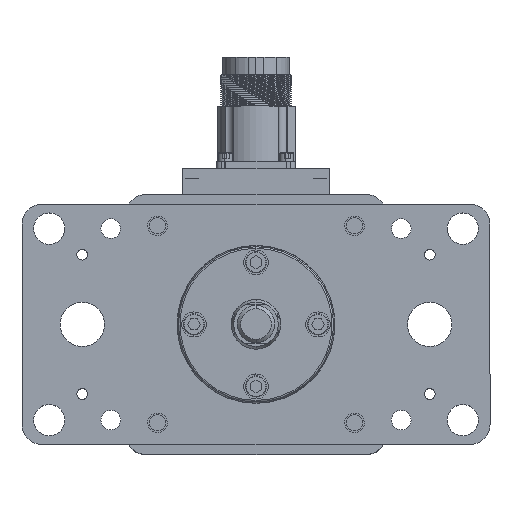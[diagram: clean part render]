
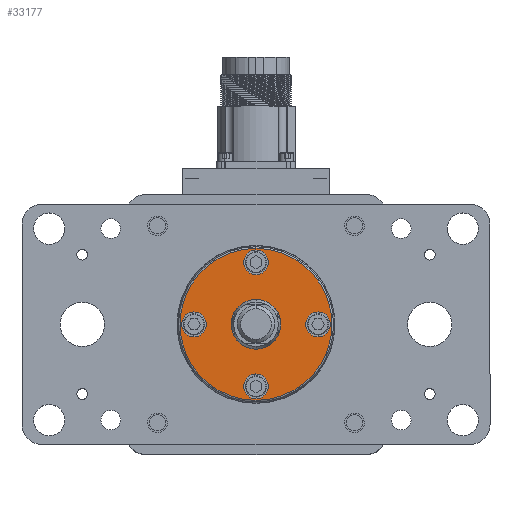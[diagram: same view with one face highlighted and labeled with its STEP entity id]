
A CAD part, top view. The second image highlights one B-rep face of the part: STEP entity #33177.
In plain terms, the highlighted planar face has unit normal (0, 0, 1).
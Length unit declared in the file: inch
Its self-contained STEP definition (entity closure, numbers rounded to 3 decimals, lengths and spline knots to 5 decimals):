
#13847 = CARTESIAN_POINT ( 'NONE',  ( 0., 0., 0. ) ) ;
#13852 = CARTESIAN_POINT ( 'NONE',  ( 0.15748, -0.7874, 0. ) ) ;
#13853 = DIRECTION ( 'NONE',  ( 1., 0., 0. ) ) ;
#13854 = DIRECTION ( 'NONE',  ( 0., 0., 1. ) ) ;
#13855 = CARTESIAN_POINT ( 'NONE',  ( 0., -0.7874, 0. ) ) ;
#13856 = AXIS2_PLACEMENT_3D ( 'NONE', #13855, #13854, #13853 ) ;
#13857 = CIRCLE ( 'NONE', #13856, 0.15748 ) ;
#13858 = CARTESIAN_POINT ( 'NONE',  ( -0.15748, -0.7874, 0. ) ) ;
#13884 = CARTESIAN_POINT ( 'NONE',  ( -0.62992, 0., 0. ) ) ;
#13885 = DIRECTION ( 'NONE',  ( 1., 0., 0. ) ) ;
#13886 = DIRECTION ( 'NONE',  ( 0., 0., 1. ) ) ;
#13887 = CARTESIAN_POINT ( 'NONE',  ( -0.7874, 0., 0. ) ) ;
#13888 = AXIS2_PLACEMENT_3D ( 'NONE', #13887, #13886, #13885 ) ;
#13889 = CIRCLE ( 'NONE', #13888, 0.15748 ) ;
#13890 = CARTESIAN_POINT ( 'NONE',  ( -0.94488, 0., 0. ) ) ;
#13953 = CARTESIAN_POINT ( 'NONE',  ( 0.15748, 0.7874, 0. ) ) ;
#13954 = DIRECTION ( 'NONE',  ( 1., 0., 0. ) ) ;
#13955 = DIRECTION ( 'NONE',  ( 0., 0., 1. ) ) ;
#13956 = CARTESIAN_POINT ( 'NONE',  ( 0., 0.7874, 0. ) ) ;
#13957 = AXIS2_PLACEMENT_3D ( 'NONE', #13956, #13955, #13954 ) ;
#13958 = CIRCLE ( 'NONE', #13957, 0.15748 ) ;
#13959 = CARTESIAN_POINT ( 'NONE',  ( -0.15748, 0.7874, 0. ) ) ;
#13983 = CARTESIAN_POINT ( 'NONE',  ( 0.94488, 0., 0. ) ) ;
#13984 = DIRECTION ( 'NONE',  ( 1., 0., 0. ) ) ;
#13985 = DIRECTION ( 'NONE',  ( 0., 0., 1. ) ) ;
#13986 = CARTESIAN_POINT ( 'NONE',  ( 0.7874, 0., 0. ) ) ;
#13987 = AXIS2_PLACEMENT_3D ( 'NONE', #13986, #13985, #13984 ) ;
#13988 = CIRCLE ( 'NONE', #13987, 0.15748 ) ;
#13989 = CARTESIAN_POINT ( 'NONE',  ( 0.62992, 0., 0. ) ) ;
#14084 = CARTESIAN_POINT ( 'NONE',  ( 0., 0.96457, 0. ) ) ;
#14085 = CARTESIAN_POINT ( 'NONE',  ( 0., -0.96457, 0. ) ) ;
#14086 = DIRECTION ( 'NONE',  ( 0., 1., 0. ) ) ;
#14087 = DIRECTION ( 'NONE',  ( 0., 0., 1. ) ) ;
#14088 = CARTESIAN_POINT ( 'NONE',  ( 0., 0., 0. ) ) ;
#14089 = AXIS2_PLACEMENT_3D ( 'NONE', #14088, #14087, #14086 ) ;
#14090 = CIRCLE ( 'NONE', #14089, 0.96457 ) ;
#14101 = AXIS2_PLACEMENT_3D ( 'NONE', #13847, #14356, #14674 ) ;
#14225 = CIRCLE ( 'NONE', #14292, 0.31496 ) ;
#14288 = CARTESIAN_POINT ( 'NONE',  ( 0., -0.31496, 0. ) ) ;
#14289 = DIRECTION ( 'NONE',  ( 0., -1., 0. ) ) ;
#14290 = DIRECTION ( 'NONE',  ( 0., 0., 1. ) ) ;
#14291 = CARTESIAN_POINT ( 'NONE',  ( 0., 0., 0. ) ) ;
#14292 = AXIS2_PLACEMENT_3D ( 'NONE', #14291, #14290, #14289 ) ;
#14309 = CARTESIAN_POINT ( 'NONE',  ( 0., 0.31496, 0. ) ) ;
#14356 = DIRECTION ( 'NONE',  ( 0., 0., 1. ) ) ;
#14610 = CIRCLE ( 'NONE', #14101, 0.31496 ) ;
#14612 = DIRECTION ( 'NONE',  ( 0., 1., 0. ) ) ;
#14613 = DIRECTION ( 'NONE',  ( 0., 0., 1. ) ) ;
#14614 = CARTESIAN_POINT ( 'NONE',  ( 0., 0., 0. ) ) ;
#14615 = AXIS2_PLACEMENT_3D ( 'NONE', #14614, #14613, #14612 ) ;
#14616 = CIRCLE ( 'NONE', #14615, 0.96457 ) ;
#14617 = DIRECTION ( 'NONE',  ( 1., 0., 0. ) ) ;
#14618 = DIRECTION ( 'NONE',  ( 0., 0., 1. ) ) ;
#14619 = CARTESIAN_POINT ( 'NONE',  ( 0., 0.7874, 0. ) ) ;
#14620 = AXIS2_PLACEMENT_3D ( 'NONE', #14619, #14618, #14617 ) ;
#14621 = CIRCLE ( 'NONE', #14620, 0.15748 ) ;
#14643 = DIRECTION ( 'NONE',  ( 1., 0., 0. ) ) ;
#14644 = DIRECTION ( 'NONE',  ( 0., 0., 1. ) ) ;
#14645 = CARTESIAN_POINT ( 'NONE',  ( 0.7874, 0., 0. ) ) ;
#14646 = AXIS2_PLACEMENT_3D ( 'NONE', #14645, #14644, #14643 ) ;
#14647 = CIRCLE ( 'NONE', #14646, 0.15748 ) ;
#14648 = DIRECTION ( 'NONE',  ( 1., 0., 0. ) ) ;
#14649 = DIRECTION ( 'NONE',  ( 0., 0., 1. ) ) ;
#14650 = CARTESIAN_POINT ( 'NONE',  ( 0., -0.7874, 0. ) ) ;
#14651 = AXIS2_PLACEMENT_3D ( 'NONE', #14650, #14649, #14648 ) ;
#14652 = CIRCLE ( 'NONE', #14651, 0.15748 ) ;
#14653 = DIRECTION ( 'NONE',  ( 1., 0., 0. ) ) ;
#14654 = DIRECTION ( 'NONE',  ( 0., 0., 1. ) ) ;
#14655 = CARTESIAN_POINT ( 'NONE',  ( -0.7874, 0., 0. ) ) ;
#14656 = AXIS2_PLACEMENT_3D ( 'NONE', #14655, #14654, #14653 ) ;
#14657 = CIRCLE ( 'NONE', #14656, 0.15748 ) ;
#14658 = DIRECTION ( 'NONE',  ( 0., 1., 0. ) ) ;
#14659 = DIRECTION ( 'NONE',  ( 0., 0., -1. ) ) ;
#14660 = CARTESIAN_POINT ( 'NONE',  ( 0., 0.98425, 0. ) ) ;
#14661 = AXIS2_PLACEMENT_3D ( 'NONE', #14660, #14659, #14658 ) ;
#14662 = PLANE ( 'NONE',  #14661 ) ;
#14663 = FACE_BOUND ( 'NONE', #33172, .T. ) ;
#14664 = FACE_OUTER_BOUND ( 'NONE', #33168, .T. ) ;
#14665 = FACE_BOUND ( 'NONE', #33164, .T. ) ;
#14666 = FACE_BOUND ( 'NONE', #33186, .T. ) ;
#14667 = FACE_BOUND ( 'NONE', #33182, .T. ) ;
#14668 = FACE_BOUND ( 'NONE', #33178, .T. ) ;
#14674 = DIRECTION ( 'NONE',  ( 0., -1., 0. ) ) ;
#32785 = VERTEX_POINT ( 'NONE', #13858 ) ;
#32787 = EDGE_CURVE ( 'NONE', #32785, #32788, #13857, .T. ) ;
#32788 = VERTEX_POINT ( 'NONE', #13852 ) ;
#32799 = VERTEX_POINT ( 'NONE', #13890 ) ;
#32801 = EDGE_CURVE ( 'NONE', #32799, #32802, #13889, .T. ) ;
#32802 = VERTEX_POINT ( 'NONE', #13884 ) ;
#32833 = VERTEX_POINT ( 'NONE', #13959 ) ;
#32835 = EDGE_CURVE ( 'NONE', #32833, #32836, #13958, .T. ) ;
#32836 = VERTEX_POINT ( 'NONE', #13953 ) ;
#32850 = VERTEX_POINT ( 'NONE', #13989 ) ;
#32852 = EDGE_CURVE ( 'NONE', #32850, #32853, #13988, .T. ) ;
#32853 = VERTEX_POINT ( 'NONE', #13983 ) ;
#32894 = EDGE_CURVE ( 'NONE', #32895, #32896, #14090, .T. ) ;
#32895 = VERTEX_POINT ( 'NONE', #14085 ) ;
#32896 = VERTEX_POINT ( 'NONE', #14084 ) ;
#32961 = EDGE_CURVE ( 'NONE', #32987, #32962, #14225, .T. ) ;
#32962 = VERTEX_POINT ( 'NONE', #14288 ) ;
#32987 = VERTEX_POINT ( 'NONE', #14309 ) ;
#33163 = ORIENTED_EDGE ( 'NONE', *, *, #32852, .F. ) ;
#33164 = EDGE_LOOP ( 'NONE', ( #33165, #33167 ) ) ;
#33165 = ORIENTED_EDGE ( 'NONE', *, *, #33166, .F. ) ;
#33166 = EDGE_CURVE ( 'NONE', #32836, #32833, #14621, .T. ) ;
#33167 = ORIENTED_EDGE ( 'NONE', *, *, #32835, .F. ) ;
#33168 = EDGE_LOOP ( 'NONE', ( #33169, #33171 ) ) ;
#33169 = ORIENTED_EDGE ( 'NONE', *, *, #33170, .T. ) ;
#33170 = EDGE_CURVE ( 'NONE', #32896, #32895, #14616, .T. ) ;
#33171 = ORIENTED_EDGE ( 'NONE', *, *, #32894, .T. ) ;
#33172 = EDGE_LOOP ( 'NONE', ( #33173, #33175 ) ) ;
#33173 = ORIENTED_EDGE ( 'NONE', *, *, #33174, .F. ) ;
#33174 = EDGE_CURVE ( 'NONE', #32962, #32987, #14610, .T. ) ;
#33175 = ORIENTED_EDGE ( 'NONE', *, *, #32961, .F. ) ;
#33177 = ADVANCED_FACE ( 'NONE', ( #14668, #14667, #14666, #14665, #14664, #14663 ), #14662, .F. ) ;
#33178 = EDGE_LOOP ( 'NONE', ( #33179, #33181 ) ) ;
#33179 = ORIENTED_EDGE ( 'NONE', *, *, #33180, .F. ) ;
#33180 = EDGE_CURVE ( 'NONE', #32802, #32799, #14657, .T. ) ;
#33181 = ORIENTED_EDGE ( 'NONE', *, *, #32801, .F. ) ;
#33182 = EDGE_LOOP ( 'NONE', ( #33183, #33185 ) ) ;
#33183 = ORIENTED_EDGE ( 'NONE', *, *, #33184, .F. ) ;
#33184 = EDGE_CURVE ( 'NONE', #32788, #32785, #14652, .T. ) ;
#33185 = ORIENTED_EDGE ( 'NONE', *, *, #32787, .F. ) ;
#33186 = EDGE_LOOP ( 'NONE', ( #33187, #33163 ) ) ;
#33187 = ORIENTED_EDGE ( 'NONE', *, *, #33188, .F. ) ;
#33188 = EDGE_CURVE ( 'NONE', #32853, #32850, #14647, .T. ) ;
